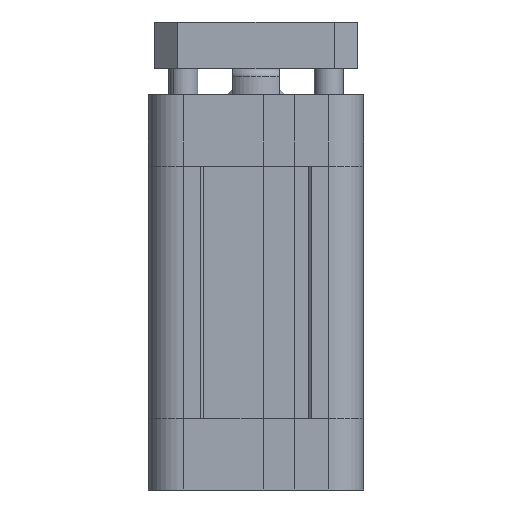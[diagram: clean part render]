
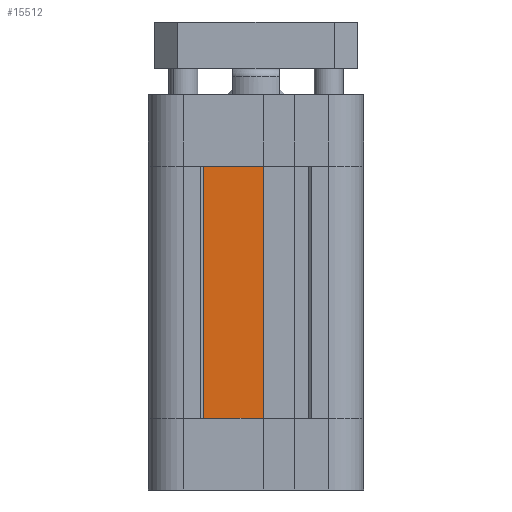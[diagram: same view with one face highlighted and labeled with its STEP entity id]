
A CAD part, front view. The second image highlights one B-rep face of the part: STEP entity #15512.
In plain terms, the highlighted planar face has unit normal (0, -1, 0).
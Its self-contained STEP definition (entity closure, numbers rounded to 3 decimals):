
#50 = ORIENTED_EDGE ( 'NONE', *, *, #16568, .F. ) ;
#399 = VERTEX_POINT ( 'NONE', #10256 ) ;
#402 = VERTEX_POINT ( 'NONE', #10317 ) ;
#430 = EDGE_CURVE ( 'NONE', #402, #399, #10345, .T. ) ;
#591 = VERTEX_POINT ( 'NONE', #10558 ) ;
#600 = EDGE_CURVE ( 'NONE', #591, #605, #10543, .T. ) ;
#605 = VERTEX_POINT ( 'NONE', #10538 ) ;
#2884 = AXIS2_PLACEMENT_3D ( 'NONE', #2946, #2945, #2944 ) ;
#2885 = PLANE ( 'NONE',  #2884 ) ;
#2886 = FACE_OUTER_BOUND ( 'NONE', #17122, .T. ) ;
#2940 = DIRECTION ( 'NONE',  ( 0., 0., -1. ) ) ;
#2941 = VECTOR ( 'NONE', #2940, 1000. ) ;
#2942 = CARTESIAN_POINT ( 'NONE',  ( -1.25, -18.1, 43.4 ) ) ;
#2943 = LINE ( 'NONE', #2942, #2941 ) ;
#2944 = DIRECTION ( 'NONE',  ( -1., 0., 0. ) ) ;
#2945 = DIRECTION ( 'NONE',  ( 0., 1., 0. ) ) ;
#2946 = CARTESIAN_POINT ( 'NONE',  ( -1.25, -18.1, 43.4 ) ) ;
#3024 = DIRECTION ( 'NONE',  ( 0., 0., -1. ) ) ;
#3025 = VECTOR ( 'NONE', #3024, 1000. ) ;
#3026 = CARTESIAN_POINT ( 'NONE',  ( 9.1, -18.1, 43.4 ) ) ;
#3027 = LINE ( 'NONE', #3026, #3025 ) ;
#10256 = CARTESIAN_POINT ( 'NONE',  ( 9.1, -18.1, 0. ) ) ;
#10317 = CARTESIAN_POINT ( 'NONE',  ( -1.25, -18.1, 0. ) ) ;
#10342 = DIRECTION ( 'NONE',  ( 1., 0., 0. ) ) ;
#10343 = VECTOR ( 'NONE', #10342, 1000. ) ;
#10344 = CARTESIAN_POINT ( 'NONE',  ( -1.25, -18.1, 0. ) ) ;
#10345 = LINE ( 'NONE', #10344, #10343 ) ;
#10538 = CARTESIAN_POINT ( 'NONE',  ( 9.1, -18.1, 43.4 ) ) ;
#10540 = DIRECTION ( 'NONE',  ( 1., 0., 0. ) ) ;
#10541 = VECTOR ( 'NONE', #10540, 1000. ) ;
#10542 = CARTESIAN_POINT ( 'NONE',  ( -1.25, -18.1, 43.4 ) ) ;
#10543 = LINE ( 'NONE', #10542, #10541 ) ;
#10558 = CARTESIAN_POINT ( 'NONE',  ( -1.25, -18.1, 43.4 ) ) ;
#14668 = ORIENTED_EDGE ( 'NONE', *, *, #600, .F. ) ;
#15512 = ADVANCED_FACE ( 'NONE', ( #2886 ), #2885, .F. ) ;
#15516 = EDGE_CURVE ( 'NONE', #591, #402, #2943, .T. ) ;
#16495 = ORIENTED_EDGE ( 'NONE', *, *, #15516, .T. ) ;
#16568 = EDGE_CURVE ( 'NONE', #605, #399, #3027, .T. ) ;
#17096 = ORIENTED_EDGE ( 'NONE', *, *, #430, .T. ) ;
#17122 = EDGE_LOOP ( 'NONE', ( #17096, #50, #14668, #16495 ) ) ;
